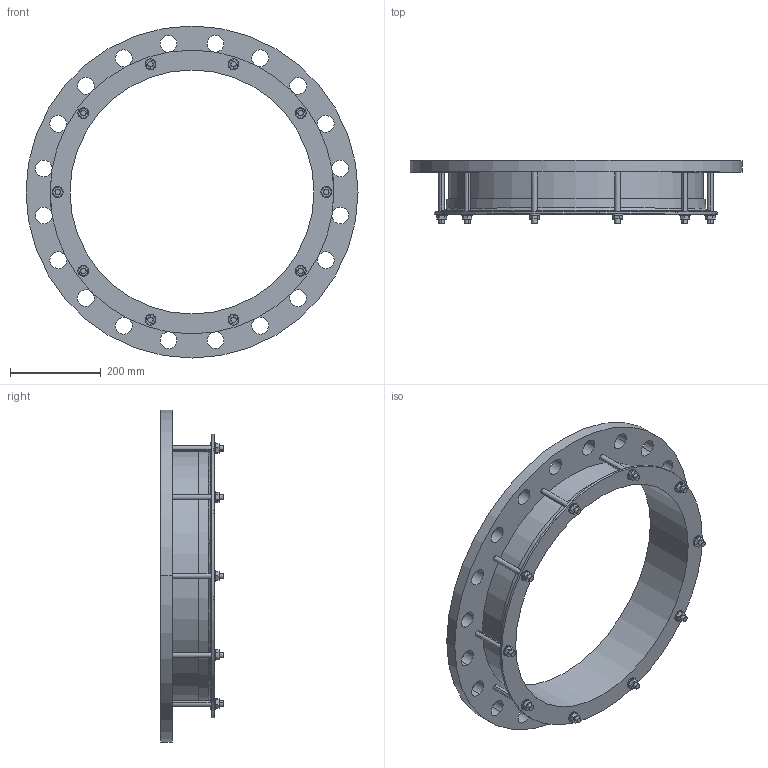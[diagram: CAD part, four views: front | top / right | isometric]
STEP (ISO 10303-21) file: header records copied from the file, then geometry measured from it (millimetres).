
FILE_DESCRIPTION((''),'2;1');
FILE_NAME('532X500PN25_10NOT','2019-04-04T',('mfairey'),('Glynwed Pipe Systems'),'CREO PARAMETRIC BY PTC INC, 2016130','CREO PARAMETRIC BY PTC INC, 2016130','');
FILE_SCHEMA(('CONFIG_CONTROL_DESIGN'));
Length unit declared in the file: millimetre
Products named in the file (1): 532X500PN25_10NOT
Bounding box: 730 x 137.45 x 730 mm (x, y, z)
Volume: 6846287.1 mm3; surface area: 970027.7 mm2
Topology: 1 solids, 1 shells, 226 faces, 604 edges, 402 vertices
Faces by surface type: cylinder 126, plane 94, cone 4, torus 2
Entity records: 7864 total; most frequent: CARTESIAN_POINT 1910, DIRECTION 1242, ORIENTED_EDGE 1208, EDGE_CURVE 604, AXIS2_PLACEMENT_3D 466, VERTEX_POINT 402, VECTOR 310, LINE 310
